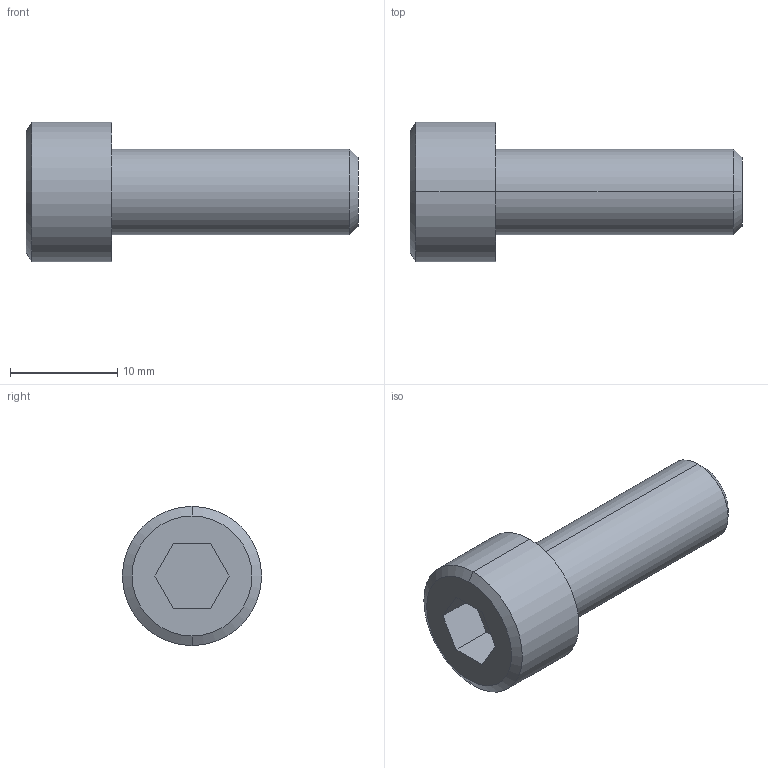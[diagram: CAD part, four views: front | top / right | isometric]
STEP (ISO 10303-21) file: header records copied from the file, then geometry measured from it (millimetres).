
FILE_DESCRIPTION (( 'STEP AP203' ), '1' );
FILE_NAME ('LZH0400-B.step', '2010-04-07T09:49:54', ( ' ' ), ( ' ' ), 'SwSTEP 2.0', 'SolidWorks 2009', '' );
FILE_SCHEMA (( 'CONFIG_CONTROL_DESIGN' ));
Length unit declared in the file: millimetre
Products named in the file (1): LZH0400-B
Bounding box: 31 x 13 x 13 mm (x, y, z)
Volume: 2076.4 mm3; surface area: 1224.6 mm2
Topology: 1 solids, 1 shells, 18 faces, 38 edges, 24 vertices
Faces by surface type: plane 10, cone 4, cylinder 4
Entity records: 559 total; most frequent: DIRECTION 88, CARTESIAN_POINT 81, ORIENTED_EDGE 76, EDGE_CURVE 38, AXIS2_PLACEMENT_3D 31, VECTOR 26, LINE 26, VERTEX_POINT 24
